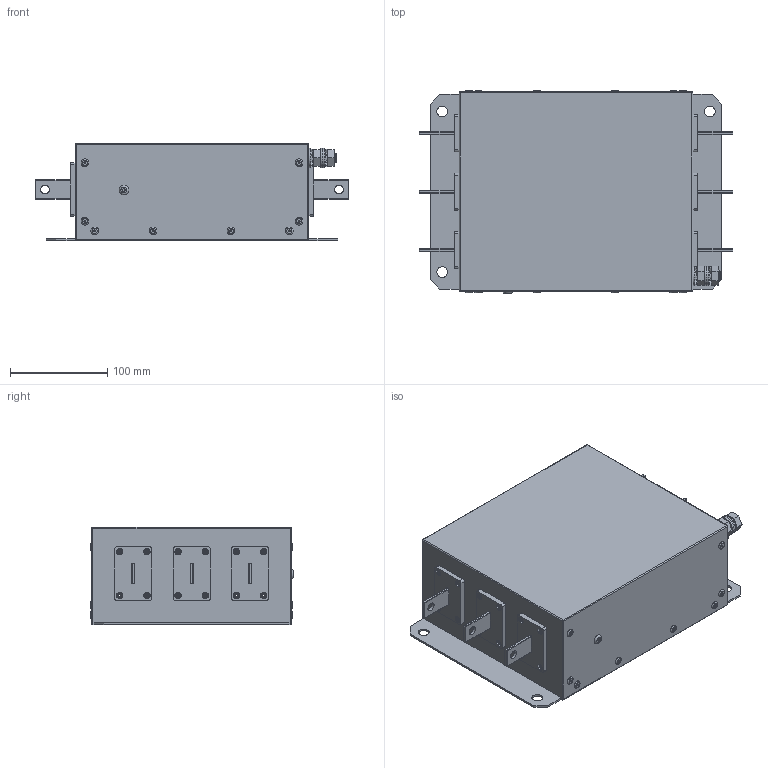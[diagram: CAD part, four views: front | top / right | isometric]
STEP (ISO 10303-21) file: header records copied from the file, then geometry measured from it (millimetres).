
FILE_DESCRIPTION(('STEP AP203'), '1');
FILE_NAME('ÝÌÑ ôèëüòð _ IEF-90_180-4', '', ('UNSPECIFIED'), ('UNSPECIFIED'), 'C3D Converter', 'C3D Toolkit', '');
FILE_SCHEMA(('CONFIG_CONTROL_DESIGN'));
Length unit declared in the file: millimetre
Products named in the file (10):  IEF-75/157-4; IEF-90/180-4 новый
Assembly tree (61 placements, depth 2):
   IEF-75/157-4
    IEF-90/180-4 новый
    IEF-90/180-4 новый  x6
    IEF-90/180-4 новый  x6
    IEF-90/180-4 новый  x24
    IEF-90/180-4 новый  x16
    IEF-90/180-4 новый
    IEF-90/180-4 новый  x3
    IEF-90/180-4 новый  x2
    IEF-90/180-4 новый  x2
Bounding box: 322 x 208.3 x 100 mm (x, y, z)
Volume: 4991434.3 mm3; surface area: 309315.5 mm2
Topology: 61 solids, 61 shells, 737 faces, 1557 edges, 979 vertices
Faces by surface type: plane 407, cylinder 256, torus 41, sphere 28, cone 5
Full cylindrical faces by diameter (mm): 1.7 x24, 2 x16, 2.8 x1, 3 x84, 5 x2, 6.6 x24, 9 x6, 10 x8, 11 x4, 18 x2, 20 x3
Entity records: 7576 total; most frequent: DIRECTION 1102, CARTESIAN_POINT 1086, ORIENTED_EDGE 862, AXIS2_PLACEMENT_3D 435, EDGE_CURVE 431, EDGE_LOOP 334, VERTEX_POINT 307, FACE_BOUND 232
